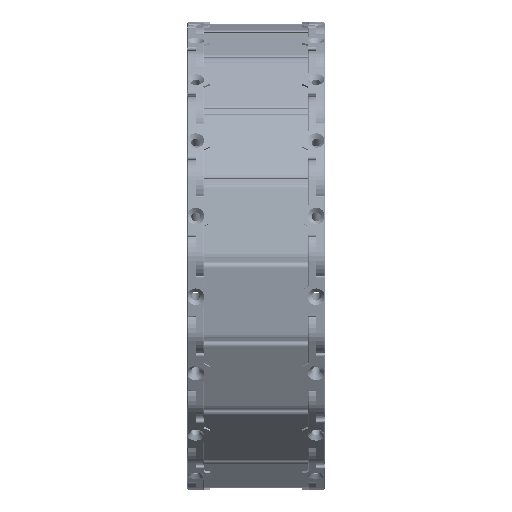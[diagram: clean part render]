
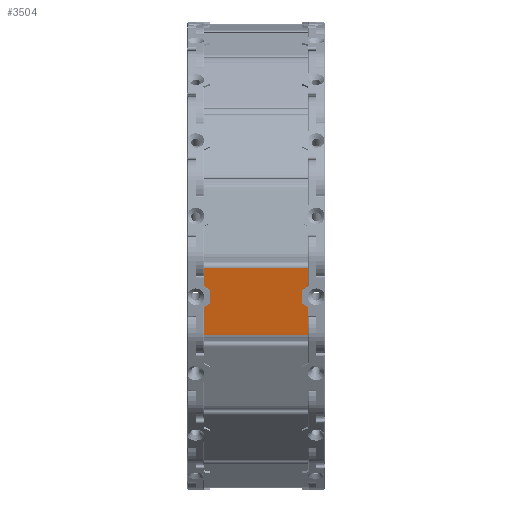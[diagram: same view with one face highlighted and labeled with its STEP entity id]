
A CAD part, front view. The second image highlights one B-rep face of the part: STEP entity #3504.
In plain terms, the highlighted planar face has unit normal (0, -0.987, -0.163) as drawn and (0, 0, 1) by its records, which use the part's own axes.
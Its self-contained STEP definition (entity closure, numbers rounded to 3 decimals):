
#3329=CARTESIAN_POINT('',(-23.997,-23.731,8.));
#3330=VERTEX_POINT('',#3329);
#3338=CARTESIAN_POINT('',(-23.997,8.807,8.));
#3339=VERTEX_POINT('',#3338);
#3340=CARTESIAN_POINT('',(-23.997,8.807,8.));
#3341=DIRECTION('',(0.0,-1.0,0.0));
#3342=VECTOR('',#3341,32.537);
#3343=LINE('',#3340,#3342);
#3344=EDGE_CURVE('',#3339,#3330,#3343,.T.);
#3371=CARTESIAN_POINT('',(26.003,8.807,8.));
#3372=VERTEX_POINT('',#3371);
#3381=CARTESIAN_POINT('',(26.003,-23.731,8.));
#3382=VERTEX_POINT('',#3381);
#3383=CARTESIAN_POINT('',(26.003,-23.731,8.));
#3384=DIRECTION('',(0.0,1.0,0.0));
#3385=VECTOR('',#3384,32.537);
#3386=LINE('',#3383,#3385);
#3387=EDGE_CURVE('',#3382,#3372,#3386,.T.);
#3483=CARTESIAN_POINT('',(-36.9,-11.95,8.));
#3484=DIRECTION('',(0.0,0.0,1.0));
#3485=DIRECTION('',(-1.0,0.0,0.0));
#3486=AXIS2_PLACEMENT_3D('',#3483,#3484,#3485);
#3487=PLANE('',#3486);
#3488=ORIENTED_EDGE('',*,*,#3344,.T.);
#3489=CARTESIAN_POINT('',(26.003,-23.731,8.));
#3490=DIRECTION('',(-1.0,0.0,0.0));
#3491=VECTOR('',#3490,50.);
#3492=LINE('',#3489,#3491);
#3493=EDGE_CURVE('',#3382,#3330,#3492,.T.);
#3494=ORIENTED_EDGE('',*,*,#3493,.F.);
#3495=ORIENTED_EDGE('',*,*,#3387,.T.);
#3496=CARTESIAN_POINT('',(26.003,8.807,8.));
#3497=DIRECTION('',(-1.0,0.0,0.0));
#3498=VECTOR('',#3497,50.0);
#3499=LINE('',#3496,#3498);
#3500=EDGE_CURVE('',#3372,#3339,#3499,.T.);
#3501=ORIENTED_EDGE('',*,*,#3500,.T.);
#3502=EDGE_LOOP('',(#3488,#3494,#3495,#3501));
#3503=FACE_OUTER_BOUND('',#3502,.T.);
#3504=ADVANCED_FACE('',(#3503),#3487,.T.);
